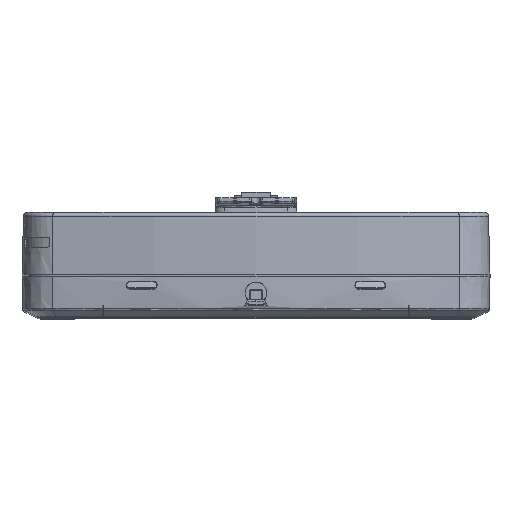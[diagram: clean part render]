
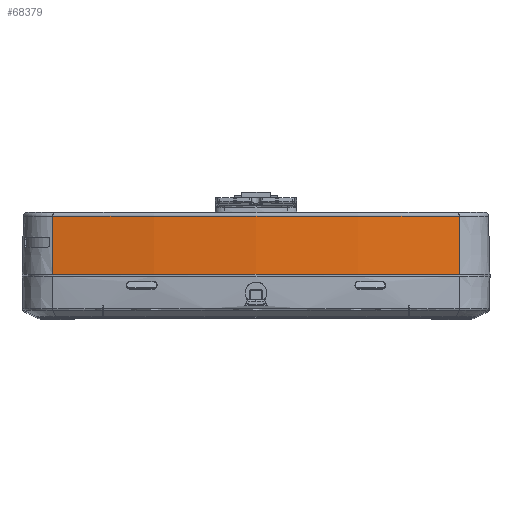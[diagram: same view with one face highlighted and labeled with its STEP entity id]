
A CAD part, top view. The second image highlights one B-rep face of the part: STEP entity #68379.
In plain terms, the highlighted conical face has half-angle 1.5 degrees and reference radius 299.797 mm.
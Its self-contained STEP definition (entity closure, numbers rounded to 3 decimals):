
#16928=CARTESIAN_POINT('',(0.,0.,-204.5));
#16929=DIRECTION('',(0.,1.,0.));
#16930=DIRECTION('',(-0.181,0.,0.983));
#16931=AXIS2_PLACEMENT_3D('',#16928,#16929,#16930);
#17484=DIRECTION('',(-0.005,1.,-0.026));
#17485=VECTOR('',#17484,15.531);
#17486=CARTESIAN_POINT('',(54.31,0.,
90.543));
#17487=LINE('',#17486,#17485);
#17492=DIRECTION('',(0.005,1.,-0.026));
#17493=VECTOR('',#17492,15.531);
#17494=CARTESIAN_POINT('',(-54.31,0.,
90.543));
#17495=LINE('',#17494,#17493);
#17501=CARTESIAN_POINT('',(0.,15.526,-204.5));
#17502=DIRECTION('',(0.,-1.,0.));
#17503=DIRECTION('',(0.181,0.,0.983));
#17504=AXIS2_PLACEMENT_3D('',#17501,#17502,#17503);
#36884=CARTESIAN_POINT('',(-54.31,0.,
90.543));
#36886=VERTEX_POINT('',#36884);
#36887=CARTESIAN_POINT('',(54.31,0.,90.543));
#36888=VERTEX_POINT('',#36887);
#36919=CARTESIAN_POINT('',(-54.237,15.526,
90.143));
#36920=VERTEX_POINT('',#36919);
#37054=CARTESIAN_POINT('',(54.237,15.526,90.143));
#37055=VERTEX_POINT('',#37054);
#68367=CARTESIAN_POINT('',(0.,7.763,-204.5));
#68368=DIRECTION('',(0.,-1.,0.));
#68369=DIRECTION('',(-1.,0.,0.));
#68370=AXIS2_PLACEMENT_3D('',#68367,#68368,#68369);
#68371=CONICAL_SURFACE('',#68370,299.797,1.5);
#68372=ORIENTED_EDGE('',*,*,#67463,.T.);
#68374=ORIENTED_EDGE('',*,*,#68373,.F.);
#68375=ORIENTED_EDGE('',*,*,#68358,.F.);
#68376=ORIENTED_EDGE('',*,*,#67414,.F.);
#68377=EDGE_LOOP('',(#68372,#68374,#68375,#68376));
#68378=FACE_OUTER_BOUND('',#68377,.F.);
#68379=ADVANCED_FACE('',(#68378),#68371,.T.);
#16932=CIRCLE('',#16931,300.);
#17505=CIRCLE('',#17504,299.593);
#67414=EDGE_CURVE('',#36886,#36888,#16932,.T.);
#67463=EDGE_CURVE('',#36886,#36920,#17495,.T.);
#68358=EDGE_CURVE('',#36888,#37055,#17487,.T.);
#68373=EDGE_CURVE('',#37055,#36920,#17505,.T.);
